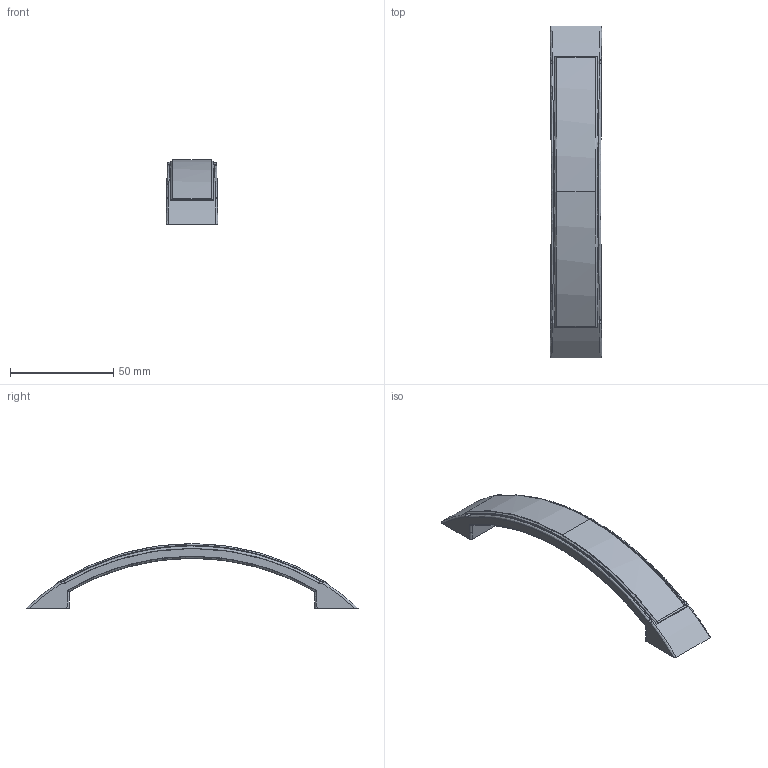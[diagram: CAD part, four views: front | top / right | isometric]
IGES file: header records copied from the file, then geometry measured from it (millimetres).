
Start section: C
Global section: file name: 8264.igs; native system: By Siemens PLM Incorporated; preprocessor: XPlus GENERIC/IGES 16.0.42; author: Author; organization: Title; date: 20220504.153436; units: millimetre
Bounding box: 25 x 160.85 x 31.28 mm (x, y, z)
Surface area: 18472.1 mm2 (no closed solid volume)
Topology: 0 solids, 0 shells, 107 faces, 556 edges, 556 vertices
Faces by surface type: bspline 107
